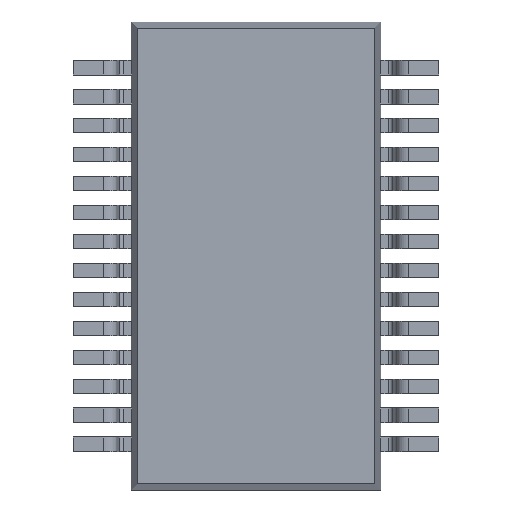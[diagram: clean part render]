
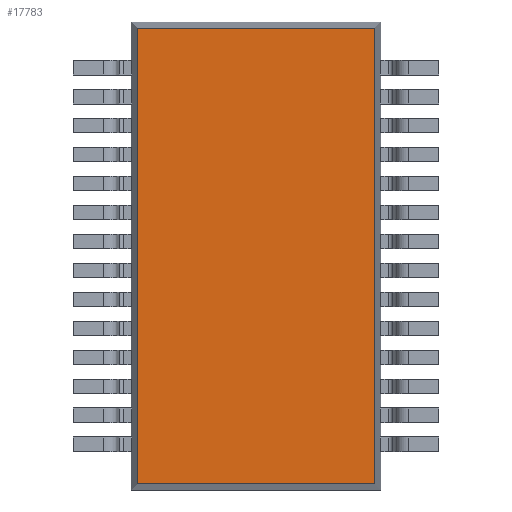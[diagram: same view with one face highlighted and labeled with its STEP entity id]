
A CAD part, front view. The second image highlights one B-rep face of the part: STEP entity #17783.
In plain terms, the highlighted planar face has unit normal (0, -1, 0).
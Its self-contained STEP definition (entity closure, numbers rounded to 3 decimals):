
#1902 = DIRECTION ( 'NONE',  ( 1., 0., 0. ) ) ;
#1906 = CARTESIAN_POINT ( 'NONE',  ( 2.8, 0.05, -5.109 ) ) ;
#1919 = DIRECTION ( 'NONE',  ( -1., 0., 0. ) ) ;
#1920 = CARTESIAN_POINT ( 'NONE',  ( 2.8, 0.05, 5.109 ) ) ;
#4108 = EDGE_LOOP ( 'NONE', ( #7436, #7437, #7438, #7439 ) ) ;
#5201 = AXIS2_PLACEMENT_3D ( 'NONE', #8762, #8773, #8774 ) ;
#6476 = FACE_OUTER_BOUND ( 'NONE', #4108, .T. ) ;
#7436 = ORIENTED_EDGE ( 'NONE', *, *, #12746, .T. ) ;
#7437 = ORIENTED_EDGE ( 'NONE', *, *, #12955, .T. ) ;
#7438 = ORIENTED_EDGE ( 'NONE', *, *, #12745, .T. ) ;
#7439 = ORIENTED_EDGE ( 'NONE', *, *, #12954, .T. ) ;
#8762 = CARTESIAN_POINT ( 'NONE',  ( 0., 0.05, 0. ) ) ;
#8771 = PLANE ( 'NONE',  #5201 ) ;
#8773 = DIRECTION ( 'NONE',  ( 0., 1., 0. ) ) ;
#8774 = DIRECTION ( 'NONE',  ( 0., 0., 1. ) ) ;
#10533 = CARTESIAN_POINT ( 'NONE',  ( 2.659, 0.05, 5.109 ) ) ;
#10540 = CARTESIAN_POINT ( 'NONE',  ( 2.659, 0.05, -5.109 ) ) ;
#10556 = CARTESIAN_POINT ( 'NONE',  ( -2.659, 0.05, 5.109 ) ) ;
#10560 = CARTESIAN_POINT ( 'NONE',  ( -2.659, 0.05, -5.109 ) ) ;
#12745 = EDGE_CURVE ( 'NONE', #16981, #16974, #15540, .T. ) ;
#12746 = EDGE_CURVE ( 'NONE', #16997, #17001, #15546, .T. ) ;
#12954 = EDGE_CURVE ( 'NONE', #16974, #16997, #15924, .T. ) ;
#12955 = EDGE_CURVE ( 'NONE', #17001, #16981, #15925, .T. ) ;
#13538 = DIRECTION ( 'NONE',  ( 0., 0., -1. ) ) ;
#13544 = DIRECTION ( 'NONE',  ( 0., 0., 1. ) ) ;
#13566 = CARTESIAN_POINT ( 'NONE',  ( -2.659, 0.05, 5.25 ) ) ;
#13621 = CARTESIAN_POINT ( 'NONE',  ( 2.659, 0.05, 5.25 ) ) ;
#15540 = LINE ( 'NONE', #13621, #15549 ) ;
#15546 = LINE ( 'NONE', #13566, #15551 ) ;
#15549 = VECTOR ( 'NONE', #13544, 1000. ) ;
#15551 = VECTOR ( 'NONE', #13538, 1000. ) ;
#15924 = LINE ( 'NONE', #1920, #15926 ) ;
#15925 = LINE ( 'NONE', #1906, #15928 ) ;
#15926 = VECTOR ( 'NONE', #1919, 1000. ) ;
#15928 = VECTOR ( 'NONE', #1902, 1000. ) ;
#16974 = VERTEX_POINT ( 'NONE', #10533 ) ;
#16981 = VERTEX_POINT ( 'NONE', #10540 ) ;
#16997 = VERTEX_POINT ( 'NONE', #10556 ) ;
#17001 = VERTEX_POINT ( 'NONE', #10560 ) ;
#17783 = ADVANCED_FACE ( 'NONE', ( #6476 ), #8771, .F. ) ;
